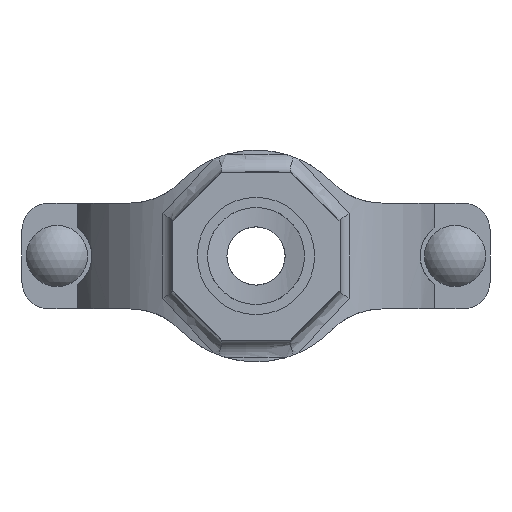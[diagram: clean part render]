
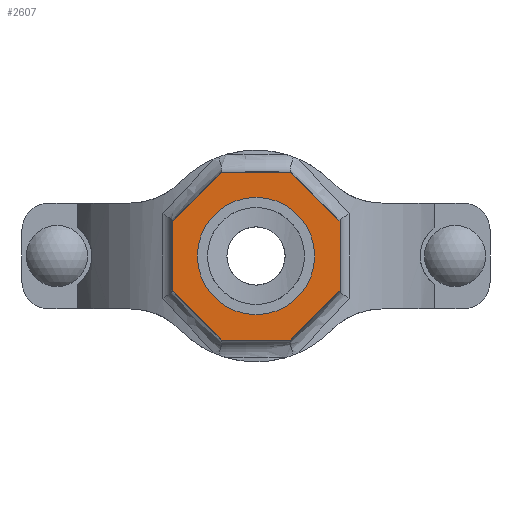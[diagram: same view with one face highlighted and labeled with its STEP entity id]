
A CAD part, front view. The second image highlights one B-rep face of the part: STEP entity #2607.
In plain terms, the highlighted planar face has unit normal (0, -1, 0) as drawn and (0, 1, 0) by its records, which use the part's own axes.
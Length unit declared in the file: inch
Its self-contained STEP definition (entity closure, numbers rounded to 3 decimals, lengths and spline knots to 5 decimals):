
#200=FACE_BOUND('',#477,.T.);
#323=FACE_OUTER_BOUND('',#476,.T.);
#476=EDGE_LOOP('',(#2183,#2184,#2185,#2186,#2187,#2188,#2189,#2190));
#477=EDGE_LOOP('',(#2191));
#615=LINE('',#4938,#801);
#618=LINE('',#4943,#804);
#620=LINE('',#4947,#806);
#622=LINE('',#4951,#808);
#658=LINE('',#5281,#844);
#660=LINE('',#5285,#846);
#662=LINE('',#5289,#848);
#664=LINE('',#5292,#850);
#801=VECTOR('',#3362,0.3937);
#804=VECTOR('',#3367,0.3937);
#806=VECTOR('',#3371,0.3937);
#808=VECTOR('',#3375,0.3937);
#844=VECTOR('',#3497,0.3937);
#846=VECTOR('',#3501,0.3937);
#848=VECTOR('',#3505,0.3937);
#850=VECTOR('',#3509,0.3937);
#936=CIRCLE('',#2871,0.83);
#1132=VERTEX_POINT('',#4935);
#1133=VERTEX_POINT('',#4937);
#1134=VERTEX_POINT('',#4941);
#1135=VERTEX_POINT('',#4945);
#1136=VERTEX_POINT('',#4949);
#1157=VERTEX_POINT('',#5096);
#1183=VERTEX_POINT('',#5280);
#1184=VERTEX_POINT('',#5284);
#1185=VERTEX_POINT('',#5288);
#1454=EDGE_CURVE('',#1133,#1132,#615,.T.);
#1457=EDGE_CURVE('',#1132,#1134,#618,.T.);
#1459=EDGE_CURVE('',#1134,#1135,#620,.T.);
#1461=EDGE_CURVE('',#1135,#1136,#622,.T.);
#1492=EDGE_CURVE('',#1157,#1157,#936,.T.);
#1528=EDGE_CURVE('',#1183,#1133,#658,.T.);
#1530=EDGE_CURVE('',#1184,#1183,#660,.T.);
#1532=EDGE_CURVE('',#1185,#1184,#662,.T.);
#1534=EDGE_CURVE('',#1136,#1185,#664,.T.);
#2183=ORIENTED_EDGE('',*,*,#1534,.T.);
#2184=ORIENTED_EDGE('',*,*,#1532,.T.);
#2185=ORIENTED_EDGE('',*,*,#1530,.T.);
#2186=ORIENTED_EDGE('',*,*,#1528,.T.);
#2187=ORIENTED_EDGE('',*,*,#1454,.T.);
#2188=ORIENTED_EDGE('',*,*,#1457,.T.);
#2189=ORIENTED_EDGE('',*,*,#1459,.T.);
#2190=ORIENTED_EDGE('',*,*,#1461,.T.);
#2191=ORIENTED_EDGE('',*,*,#1492,.T.);
#2343=PLANE('',#2894);
#2607=ADVANCED_FACE('',(#323,#200),#2343,.T.);
#2871=AXIS2_PLACEMENT_3D('',#5097,#3439,#3440);
#2894=AXIS2_PLACEMENT_3D('',#5293,#3510,#3511);
#3362=DIRECTION('',(0.,0.,1.));
#3367=DIRECTION('',(0.707,0.,0.707));
#3371=DIRECTION('',(1.,0.,0.));
#3375=DIRECTION('',(0.707,0.,-0.707));
#3439=DIRECTION('center_axis',(0.,-1.,0.));
#3440=DIRECTION('ref_axis',(-1.,0.,0.));
#3497=DIRECTION('',(-0.707,0.,0.707));
#3501=DIRECTION('',(-1.,0.,0.));
#3505=DIRECTION('',(-0.707,0.,-0.707));
#3509=DIRECTION('',(0.,0.,-1.));
#3510=DIRECTION('center_axis',(0.,1.,0.));
#3511=DIRECTION('ref_axis',(0.,0.,1.));
#4935=CARTESIAN_POINT('',(-1.19,3.78,0.49291));
#4937=CARTESIAN_POINT('',(-1.19,3.78,-0.49291));
#4938=CARTESIAN_POINT('',(-1.19,3.78,0.49291));
#4941=CARTESIAN_POINT('',(-0.49291,3.78,1.19));
#4943=CARTESIAN_POINT('',(-0.49291,3.78,1.19));
#4945=CARTESIAN_POINT('',(0.49291,3.78,1.19));
#4947=CARTESIAN_POINT('',(0.49291,3.78,1.19));
#4949=CARTESIAN_POINT('',(1.19,3.78,0.49291));
#4951=CARTESIAN_POINT('',(1.19,3.78,0.49291));
#5096=CARTESIAN_POINT('',(0.83,3.78,0.));
#5097=CARTESIAN_POINT('Origin',(0.,3.78,0.));
#5280=CARTESIAN_POINT('',(-0.49291,3.78,-1.19));
#5281=CARTESIAN_POINT('',(-1.19,3.78,-0.49291));
#5284=CARTESIAN_POINT('',(0.49291,3.78,-1.19));
#5285=CARTESIAN_POINT('',(-0.49291,3.78,-1.19));
#5288=CARTESIAN_POINT('',(1.19,3.78,-0.49291));
#5289=CARTESIAN_POINT('',(0.49291,3.78,-1.19));
#5292=CARTESIAN_POINT('',(1.19,3.78,-0.49291));
#5293=CARTESIAN_POINT('Origin',(0.,3.78,0.));
